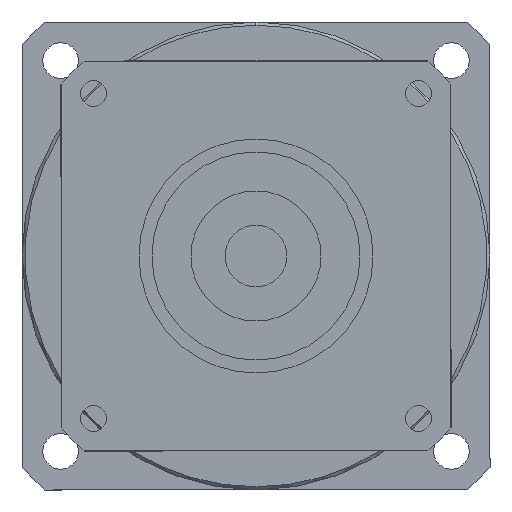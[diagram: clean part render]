
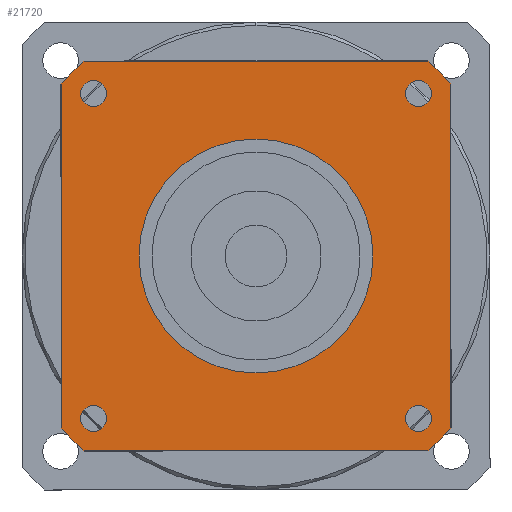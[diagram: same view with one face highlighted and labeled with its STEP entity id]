
A CAD part, left-side view. The second image highlights one B-rep face of the part: STEP entity #21720.
In plain terms, the highlighted planar face has unit normal (-1, 0, 0) as drawn and (0, 0, -1) by its records, which use the part's own axes.
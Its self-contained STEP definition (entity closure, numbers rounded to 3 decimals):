
#15830=CARTESIAN_POINT('',(26.458,30.,-95.));
#15840=VERTEX_POINT('',#15830);
#15870=CARTESIAN_POINT('',(0.,0.,
-95.));
#15880=DIRECTION('',(0.,0.,1.));
#15890=DIRECTION('',(0.,-1.,0.));
#15900=AXIS2_PLACEMENT_3D('',#15870,#15880,#15890);
#15910=CIRCLE('',#15900,40.);
#15920=CARTESIAN_POINT('',(30.,26.458,-95.));
#15930=VERTEX_POINT('',#15920);
#15940=EDGE_CURVE('',#15930,#15840,#15910,.T.);
#18330=CARTESIAN_POINT('',(-26.458,30.,-95.));
#18340=VERTEX_POINT('',#18330);
#18420=CARTESIAN_POINT('',(-30.,26.458,-95.));
#18430=VERTEX_POINT('',#18420);
#18460=CARTESIAN_POINT('',(0.,0.,
-95.));
#18470=DIRECTION('',(0.,0.,1.));
#18480=DIRECTION('',(0.,-1.,0.));
#18490=AXIS2_PLACEMENT_3D('',#18460,#18470,#18480);
#18500=CIRCLE('',#18490,40.);
#18510=EDGE_CURVE('',#18340,#18430,#18500,.T.);
#19020=CARTESIAN_POINT('',(-30.,-26.458,-95.));
#19030=VERTEX_POINT('',#19020);
#19110=CARTESIAN_POINT('',(-26.458,-30.,-95.));
#19120=VERTEX_POINT('',#19110);
#19150=CARTESIAN_POINT('',(0.,0.,
-95.));
#19160=DIRECTION('',(0.,0.,1.));
#19170=DIRECTION('',(0.,-1.,0.));
#19180=AXIS2_PLACEMENT_3D('',#19150,#19160,#19170);
#19190=CIRCLE('',#19180,40.);
#19200=EDGE_CURVE('',#19030,#19120,#19190,.T.);
#19670=CARTESIAN_POINT('',(26.458,-30.,-95.));
#19680=VERTEX_POINT('',#19670);
#19760=CARTESIAN_POINT('',(30.,-26.458,-95.));
#19770=VERTEX_POINT('',#19760);
#19800=CARTESIAN_POINT('',(0.,0.,
-95.));
#19810=DIRECTION('',(0.,0.,1.));
#19820=DIRECTION('',(0.,-1.,0.));
#19830=AXIS2_PLACEMENT_3D('',#19800,#19810,#19820);
#19840=CIRCLE('',#19830,40.);
#19850=EDGE_CURVE('',#19680,#19770,#19840,.T.);
#20000=CARTESIAN_POINT('',(30.,-30.,-95.));
#20010=DIRECTION('',(0.,1.,0.));
#20020=VECTOR('',#20010,1000.);
#20030=LINE('',#20000,#20020);
#20040=EDGE_CURVE('',#19770,#15930,#20030,.T.);
#20190=CARTESIAN_POINT('',(30.,30.,-95.));
#20200=DIRECTION('',(-1.,0.,0.));
#20210=VECTOR('',#20200,1000.);
#20220=LINE('',#20190,#20210);
#20230=EDGE_CURVE('',#15840,#18340,#20220,.T.);
#20370=CARTESIAN_POINT('',(-25.,23.,-95.));
#20380=VERTEX_POINT('',#20370);
#20470=CARTESIAN_POINT('',(-25.,27.,-95.));
#20480=VERTEX_POINT('',#20470);
#20510=CARTESIAN_POINT('',(-25.,25.,-95.));
#20520=DIRECTION('',(0.,0.,-1.));
#20530=DIRECTION('',(-1.,0.,0.));
#20540=AXIS2_PLACEMENT_3D('',#20510,#20520,#20530);
#20550=CIRCLE('',#20540,2.);
#20560=CARTESIAN_POINT('',(-27.,25.,-95.));
#20570=VERTEX_POINT('',#20560);
#20580=EDGE_CURVE('',#20570,#20480,#20550,.T.);
#20600=EDGE_CURVE('',#20380,#20570,#20550,.T.);
#20650=CARTESIAN_POINT('',(-30.,30.,-95.));
#20660=DIRECTION('',(0.,0.,1.));
#20670=DIRECTION('',(-1.,0.,0.));
#20680=AXIS2_PLACEMENT_3D('',#20650,#20660,#20670);
#20690=PLANE('',#20680);
#20700=CARTESIAN_POINT('',(25.,-25.,-95.));
#20710=DIRECTION('',(0.,0.,-1.));
#20720=DIRECTION('',(1.,0.,0.));
#20730=AXIS2_PLACEMENT_3D('',#20700,#20710,#20720);
#20740=CIRCLE('',#20730,2.);
#20750=CARTESIAN_POINT('',(27.,-25.,-95.));
#20760=VERTEX_POINT('',#20750);
#20770=CARTESIAN_POINT('',(25.,-27.,-95.));
#20780=VERTEX_POINT('',#20770);
#20790=EDGE_CURVE('',#20760,#20780,#20740,.T.);
#20800=ORIENTED_EDGE('',*,*,#20790,.F.);
#20810=CARTESIAN_POINT('',(25.,-23.,-95.));
#20820=VERTEX_POINT('',#20810);
#20830=EDGE_CURVE('',#20780,#20820,#20740,.T.);
#20840=ORIENTED_EDGE('',*,*,#20830,.F.);
#20850=EDGE_CURVE('',#20820,#20760,#20740,.T.);
#20860=ORIENTED_EDGE('',*,*,#20850,.F.);
#20870=EDGE_LOOP('',(#20860,#20840,#20800));
#20880=FACE_BOUND('',#20870,.T.);
#20890=CARTESIAN_POINT('',(25.,25.,-95.));
#20900=DIRECTION('',(0.,0.,-1.));
#20910=DIRECTION('',(0.,1.,0.));
#20920=AXIS2_PLACEMENT_3D('',#20890,#20900,#20910);
#20930=CIRCLE('',#20920,2.);
#20940=CARTESIAN_POINT('',(25.,27.,-95.));
#20950=VERTEX_POINT('',#20940);
#20960=CARTESIAN_POINT('',(27.,25.,-95.));
#20970=VERTEX_POINT('',#20960);
#20980=EDGE_CURVE('',#20950,#20970,#20930,.T.);
#20990=ORIENTED_EDGE('',*,*,#20980,.F.);
#21000=CARTESIAN_POINT('',(23.,25.,-95.));
#21010=VERTEX_POINT('',#21000);
#21020=EDGE_CURVE('',#20970,#21010,#20930,.T.);
#21030=ORIENTED_EDGE('',*,*,#21020,.F.);
#21040=EDGE_CURVE('',#21010,#20950,#20930,.T.);
#21050=ORIENTED_EDGE('',*,*,#21040,.F.);
#21060=EDGE_LOOP('',(#21050,#21030,#20990));
#21070=FACE_BOUND('',#21060,.T.);
#21080=ORIENTED_EDGE('',*,*,#20580,.F.);
#21090=EDGE_CURVE('',#20480,#20380,#20550,.T.);
#21100=ORIENTED_EDGE('',*,*,#21090,.F.);
#21110=ORIENTED_EDGE('',*,*,#20600,.F.);
#21120=EDGE_LOOP('',(#21110,#21100,#21080));
#21130=FACE_BOUND('',#21120,.T.);
#21140=CARTESIAN_POINT('',(-25.,-25.,-95.));
#21150=DIRECTION('',(0.,0.,-1.));
#21160=DIRECTION('',(0.,-1.,0.));
#21170=AXIS2_PLACEMENT_3D('',#21140,#21150,#21160);
#21180=CIRCLE('',#21170,2.);
#21190=CARTESIAN_POINT('',(-25.,-27.,-95.));
#21200=VERTEX_POINT('',#21190);
#21210=CARTESIAN_POINT('',(-27.,-25.,-95.));
#21220=VERTEX_POINT('',#21210);
#21230=EDGE_CURVE('',#21200,#21220,#21180,.T.);
#21240=ORIENTED_EDGE('',*,*,#21230,.F.);
#21250=CARTESIAN_POINT('',(-23.,-25.,-95.));
#21260=VERTEX_POINT('',#21250);
#21270=EDGE_CURVE('',#21220,#21260,#21180,.T.);
#21280=ORIENTED_EDGE('',*,*,#21270,.F.);
#21290=EDGE_CURVE('',#21260,#21200,#21180,.T.);
#21300=ORIENTED_EDGE('',*,*,#21290,.F.);
#21310=EDGE_LOOP('',(#21300,#21280,#21240));
#21320=FACE_BOUND('',#21310,.T.);
#21330=ORIENTED_EDGE('',*,*,#19200,.F.);
#21340=CARTESIAN_POINT('',(-30.,-30.,-95.));
#21350=DIRECTION('',(1.,0.,0.));
#21360=VECTOR('',#21350,1000.);
#21370=LINE('',#21340,#21360);
#21380=EDGE_CURVE('',#19120,#19680,#21370,.T.);
#21390=ORIENTED_EDGE('',*,*,#21380,.F.);
#21400=ORIENTED_EDGE('',*,*,#19850,.F.);
#21410=ORIENTED_EDGE('',*,*,#20040,.F.);
#21420=ORIENTED_EDGE('',*,*,#15940,.F.);
#21430=ORIENTED_EDGE('',*,*,#20230,.F.);
#21440=ORIENTED_EDGE('',*,*,#18510,.F.);
#21450=CARTESIAN_POINT('',(-30.,30.,-95.));
#21460=DIRECTION('',(0.,-1.,0.));
#21470=VECTOR('',#21460,1000.);
#21480=LINE('',#21450,#21470);
#21490=EDGE_CURVE('',#18430,#19030,#21480,.T.);
#21500=ORIENTED_EDGE('',*,*,#21490,.F.);
#21510=EDGE_LOOP('',(#21500,#21440,#21430,#21420,#21410,#21400,#21390,
#21330));
#21520=FACE_OUTER_BOUND('',#21510,.T.);
#21530=CARTESIAN_POINT('',(0.,0.,
-95.));
#21540=DIRECTION('',(0.,0.,1.));
#21550=DIRECTION('',(0.,-1.,0.));
#21560=AXIS2_PLACEMENT_3D('',#21530,#21540,#21550);
#21570=CIRCLE('',#21560,18.);
#21580=CARTESIAN_POINT('',(18.,0.,-95.));
#21590=VERTEX_POINT('',#21580);
#21600=CARTESIAN_POINT('',(-18.,0.,-95.));
#21610=VERTEX_POINT('',#21600);
#21620=EDGE_CURVE('',#21590,#21610,#21570,.T.);
#21630=ORIENTED_EDGE('',*,*,#21620,.T.);
#21640=CARTESIAN_POINT('',(0.,-18.,-95.));
#21650=VERTEX_POINT('',#21640);
#21660=EDGE_CURVE('',#21650,#21590,#21570,.T.);
#21670=ORIENTED_EDGE('',*,*,#21660,.T.);
#21680=EDGE_CURVE('',#21610,#21650,#21570,.T.);
#21690=ORIENTED_EDGE('',*,*,#21680,.T.);
#21700=EDGE_LOOP('',(#21690,#21670,#21630));
#21710=FACE_BOUND('',#21700,.T.);
#21720=ADVANCED_FACE('',(#20880,#21070,#21130,#21320,#21520,#21710),
#20690,.F.);
